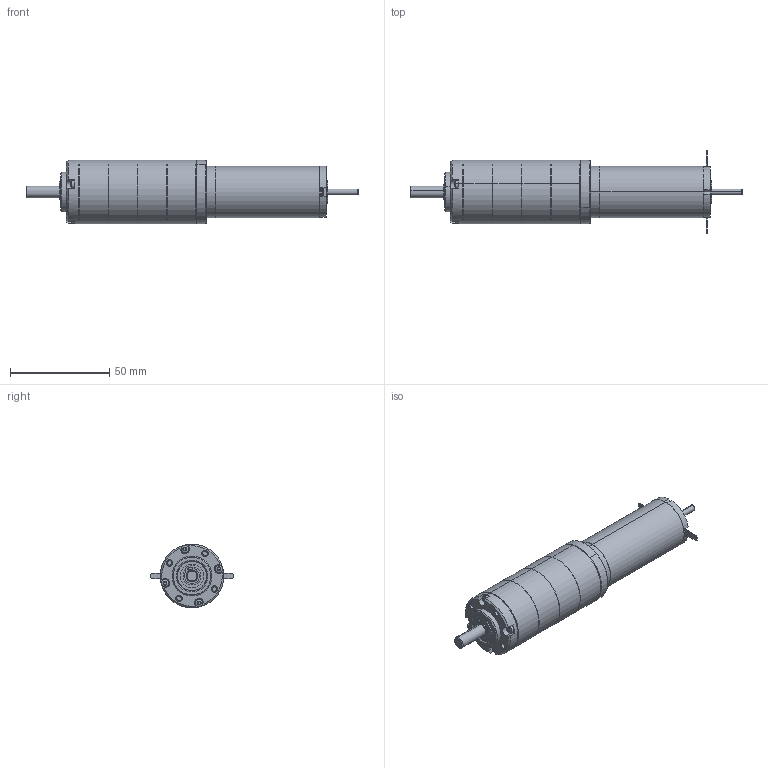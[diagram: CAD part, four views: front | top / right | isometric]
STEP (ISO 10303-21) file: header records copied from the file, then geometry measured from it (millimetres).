
FILE_DESCRIPTION (( 'STEP AP214' ), '1' );
FILE_NAME ('DCX26LG + PM32 4 etages.STEP', '2015-05-28T13:08:57', ( '' ), ( '' ), 'SwSTEP 2.0', 'SolidWorks 2014', '' );
FILE_SCHEMA (( 'AUTOMOTIVE_DESIGN' ));
Length unit declared in the file: millimetre
Products named in the file (20): D625-619_6-2Z_1; D472_15X1_1; 8101913_LAGERFLANSCH_1; DCX26LG_Part; PM32 pour RE25_4 etages; DCX26LG + PM32 4 etages; P8209_8100249_ZAHNKRANZ_1ST_1; Coté moteur^PM32 pour RE25; SCHRAUBE_1237409; MOTORRITZEL_Z17_1248761; 8011610_ANLAUFSCHEIBE_G_1ST_1; MOTORFLANSCH_1248630; Coté sortie^PM32 pour RE25; FLACHKOPFSCHRAUBE_M2X21_PRECOTE_1; GK235_POS42_DICHTRING_1; DIN471_SR_06X00_7_1; GK545_POS23_4_ABTRIEB_LK4_KPL_1; GK235_POS13_LAGERBOLZEN_1; GK545_POS22_ABTRIEB_ROHTEIL_AF0_1; DIN998_PS_6X12X0_5_1
Assembly tree (35 placements, depth 5):
  DCX26LG + PM32 4 etages
    DCX26LG_Part
    PM32 pour RE25_4 etages
      Coté sortie^PM32 pour RE25
        8101913_LAGERFLANSCH_1
        D472_15X1_1
        D625-619_6-2Z_1  x2
        DIN998_PS_6X12X0_5_1  x2
        GK545_POS23_4_ABTRIEB_LK4_KPL_1
          GK545_POS22_ABTRIEB_ROHTEIL_AF0_1
          GK235_POS13_LAGERBOLZEN_1  x3
        DIN471_SR_06X00_7_1
        GK235_POS42_DICHTRING_1
        FLACHKOPFSCHRAUBE_M2X21_PRECOTE_1  x4
      Coté moteur^PM32 pour RE25
        GK235_POS42_DICHTRING_1
        MOTORFLANSCH_1248630
        8011610_ANLAUFSCHEIBE_G_1ST_1
        MOTORRITZEL_Z17_1248761
        SCHRAUBE_1237409  x3
      P8209_8100249_ZAHNKRANZ_1ST_1  x4
      GK235_POS42_DICHTRING_1  x3
Bounding box: 166.95 x 41.5 x 32 mm (x, y, z)
Volume: 53052.7 mm3; surface area: 50366.9 mm2
Topology: 41 solids, 67 shells, 3161 faces, 8317 edges, 5366 vertices
Faces by surface type: plane 1267, cylinder 1218, cone 471, bspline 205
Entity records: 86926 total; most frequent: CARTESIAN_POINT 16970, DIRECTION 11759, ORIENTED_EDGE 11410, EDGE_CURVE 5724, AXIS2_PLACEMENT_3D 4176, VERTEX_POINT 3656, LINE 3407, VECTOR 3407
